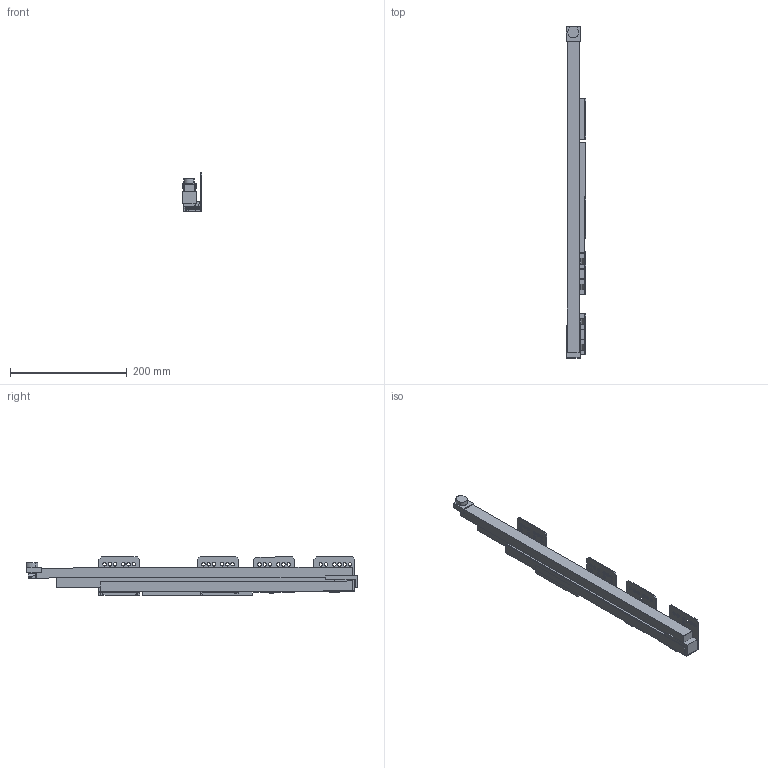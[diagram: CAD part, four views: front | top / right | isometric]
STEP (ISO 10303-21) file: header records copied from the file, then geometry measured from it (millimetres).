
FILE_DESCRIPTION (( 'STEP AP214' ), '1' );
FILE_NAME ('_IMOS Dynamic-XP VA 80kg NL550 RE Tipmatic.step', '2010-07-08T13:28:06', ( 'grass' ), ( '' ), 'SwSTEP 2.0', 'SolidWorks 2010', '' );
FILE_SCHEMA (( 'AUTOMOTIVE_DESIGN' ));
Length unit declared in the file: millimetre
Products named in the file (1): _IMOS Dynamic-XP VA 80kg NL550 RE Tipmatic
Bounding box: 33.14 x 568.02 x 66.67 mm (x, y, z)
Volume: 492235.5 mm3; surface area: 198083.6 mm2
Topology: 10 solids, 10 shells, 280 faces, 772 edges, 514 vertices
Faces by surface type: plane 193, cylinder 87
Entity records: 9171 total; most frequent: CARTESIAN_POINT 1567, ORIENTED_EDGE 1544, DIRECTION 1510, EDGE_CURVE 772, VECTOR 596, LINE 596, VERTEX_POINT 514, AXIS2_PLACEMENT_3D 457
